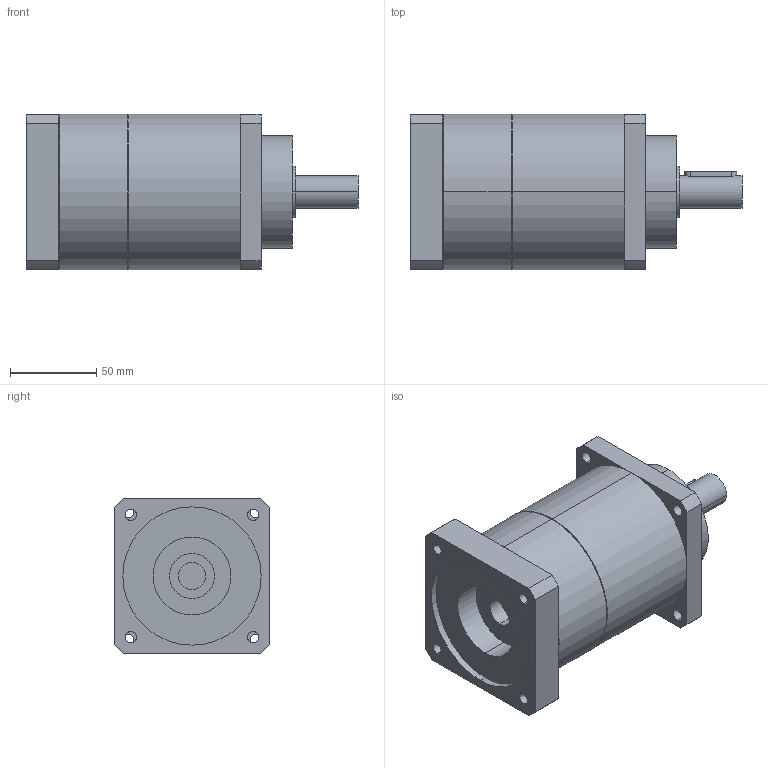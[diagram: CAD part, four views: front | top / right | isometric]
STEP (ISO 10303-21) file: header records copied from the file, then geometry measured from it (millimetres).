
FILE_DESCRIPTION(('CoCreate Modeling STEP Export'),'2;1');
FILE_NAME('GPT90_ig-9-12-16-20-25-28-35-40-50-70-100_19_B5T_16_P34.stp','2015-02-04T11:32:21',(''),(''),'CoCreate Modeling STEP processor for AP214 (Solid Model)','CoCreate Modeling 16.00C 25-Feb-2009 (C) Parametric Technology GmbH','');
FILE_SCHEMA(('AUTOMOTIVE_DESIGN { 1 0 10303 214 1 1 1 1 }'));
Length unit declared in the file: millimetre
Products named in the file (2): GPT90_ig-9-12-16-20-25-28-35-40-50-70-100_19_B5T_16_P34
Assembly tree (1 placements, depth 2):
  GPT90_ig-9-12-16-20-25-28-35-40-50-70-100_19_B5T_16_P34
    GPT90_ig-9-12-16-20-25-28-35-40-50-70-100_19_B5T_16_P34
Bounding box: 192 x 90 x 90 mm (x, y, z)
Volume: 934912.1 mm3; surface area: 73990 mm2
Topology: 1 solids, 1 shells, 77 faces, 206 edges, 141 vertices
Faces by surface type: cylinder 46, plane 27, cone 4
Entity records: 2596 total; most frequent: CARTESIAN_POINT 742, ORIENTED_EDGE 412, DIRECTION 324, EDGE_CURVE 206, VERTEX_POINT 141, AXIS2_PLACEMENT_3D 120, EDGE_LOOP 103, VECTOR 84
